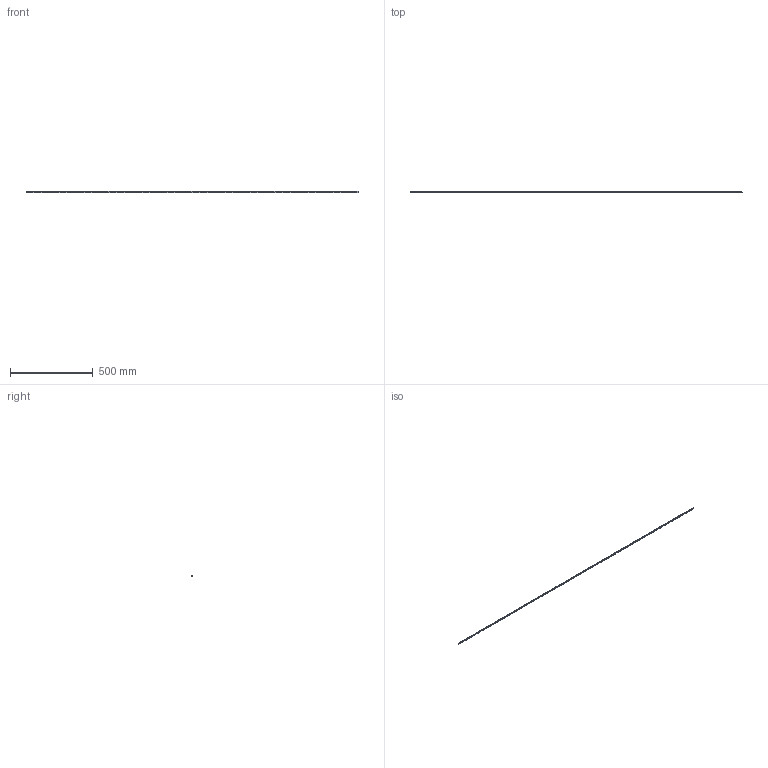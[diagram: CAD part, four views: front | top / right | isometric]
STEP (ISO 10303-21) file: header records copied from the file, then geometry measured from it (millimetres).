
FILE_DESCRIPTION (( 'STEP AP203' ), '1' );
FILE_NAME ('Sigma - 2 Meter Length.STEP', '2022-05-24T15:03:26', ( '' ), ( '' ), 'SwSTEP 2.0', 'SolidWorks 2020', '' );
FILE_SCHEMA (( 'CONFIG_CONTROL_DESIGN' ));
Length unit declared in the file: millimetre
Products named in the file (1): Sigma - 2 Meter Length
Bounding box: 2000 x 1 x 8.01 mm (x, y, z)
Volume: 7040.1 mm3; surface area: 32291.7 mm2
Topology: 1 solids, 1 shells, 8692 faces, 24876 edges, 15944 vertices
Faces by surface type: plane 5492, cylinder 2640, sphere 480, bspline 80
Entity records: 276757 total; most frequent: CARTESIAN_POINT 49273, ORIENTED_EDGE 47832, DIRECTION 47222, EDGE_CURVE 23916, VECTOR 17516, LINE 17516, VERTEX_POINT 15944, AXIS2_PLACEMENT_3D 14853
